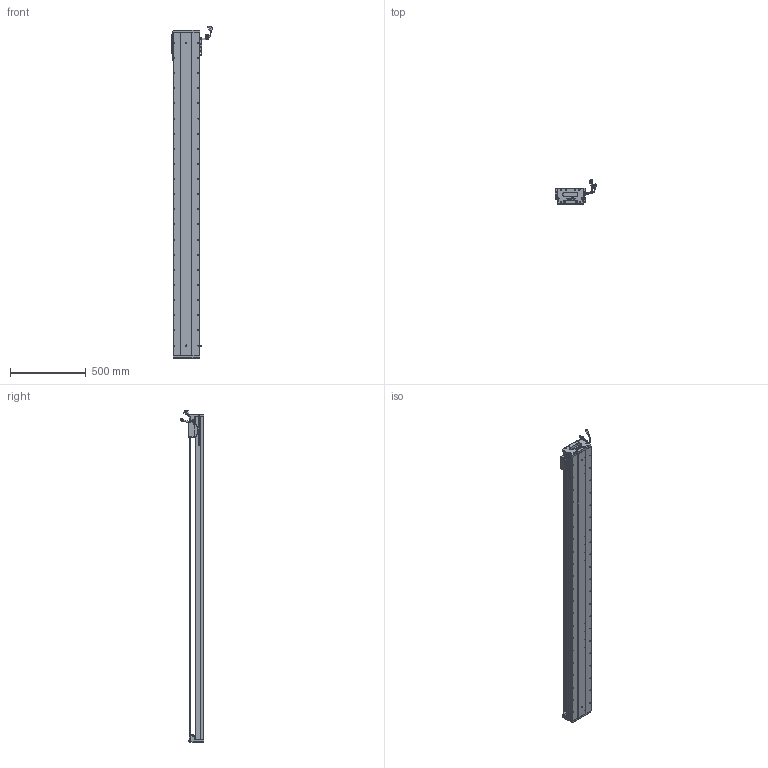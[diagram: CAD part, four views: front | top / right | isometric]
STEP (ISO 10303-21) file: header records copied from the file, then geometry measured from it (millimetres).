
FILE_DESCRIPTION (( 'STEP AP203' ), '1' );
FILE_NAME ('Z1-RY170D-1-L500-B-K.SLDASM_1950.step', '2021-05-17T08:54:17', ( '盈信电脑' ), ( '东莞市道滘镇水果街19号' ), 'SwSTEP 2.0', 'SolidWorks 2016', '' );
FILE_SCHEMA (( 'CONFIG_CONTROL_DESIGN' ));
Length unit declared in the file: millimetre
Products named in the file (36): Z1-RY170臏賑輸(21遴); Z-170詩湍傷裔啣; SCALE-Part-1; SCREW-M1.6; Z-RY170詩湍奻揤裔; HARNESS; 140蚥薯蝶輸; 080黍杅芛假蚾釱21遴; 170-Z-臏賑輸盄裔(21遴); SCREW-M1.7; SCREW-M1.6-3; COVER; Z-RY170詩湍狟揤裔; RY170直线电机感应器672光电感应片; HARNESS-Part-1; LABEL-Part-1; Z1-RY170-L500耀郪菁釱_1950; Z1-RY170-L500詩湍145mm遵_1950; COVER-Part-1; HARNESS-Part-2; PBU_SHEET; PSLH080_PSLF2; SEAL-Part-1; 榋妏寠巭燃_暯_M2_2; SCALE-Part-2; LABEL; SCREW-M1.7-1; Z1-RY170D-1-L500-B-K.SLDASM_1950; 覜茼ん672; SCREW-M1.6-2; SEAL; SCREW-M1.6-1; 140雄赽晤鎢ん堤盄; SHIELDPLATE; HOLDER0; SCALE
Assembly tree (41 placements, depth 4):
  Z1-RY170D-1-L500-B-K.SLDASM_1950
    Z1-RY170-L500耀郪菁釱_1950
    RY170直线电机感应器672光电感应片
    Z1-RY170臏賑輸(21遴)
    覜茼ん672  x3
    PSLH080_PSLF2
      SCALE
        SCALE-Part-1
        SCALE-Part-2
      HARNESS
        HARNESS-Part-1
        HARNESS-Part-2
      LABEL
        LABEL-Part-1
      COVER
        COVER-Part-1
      SEAL
        SEAL-Part-1
      榋妏寠巭燃_暯_M2_2
      SHIELDPLATE
      SCREW-M1.7
      SCREW-M1.7-1
      PBU_SHEET
      SCREW-M1.6
      SCREW-M1.6-1
      SCREW-M1.6-2
      SCREW-M1.6-3
      HOLDER0
    080黍杅芛假蚾釱21遴
    Z1-RY170-L500詩湍145mm遵_1950
    Z-170詩湍傷裔啣  x2
    Z-RY170詩湍奻揤裔  x2
    Z-RY170詩湍狟揤裔  x2
    140蚥薯蝶輸  x2
    170-Z-臏賑輸盄裔(21遴)
    140雄赽晤鎢ん堤盄
Bounding box: 275.34 x 158.11 x 2193.72 mm (x, y, z)
Volume: 10665449.8 mm3; surface area: 2663724.3 mm2
Topology: 36 solids, 36 shells, 3666 faces, 10093 edges, 6315 vertices
Faces by surface type: cylinder 1800, plane 1248, cone 496, torus 69, bspline 53
Entity records: 113497 total; most frequent: CARTESIAN_POINT 31292, ORIENTED_EDGE 16766, DIRECTION 15759, EDGE_CURVE 8383, AXIS2_PLACEMENT_3D 5780, VERTEX_POINT 5433, LINE 4199, VECTOR 4199
